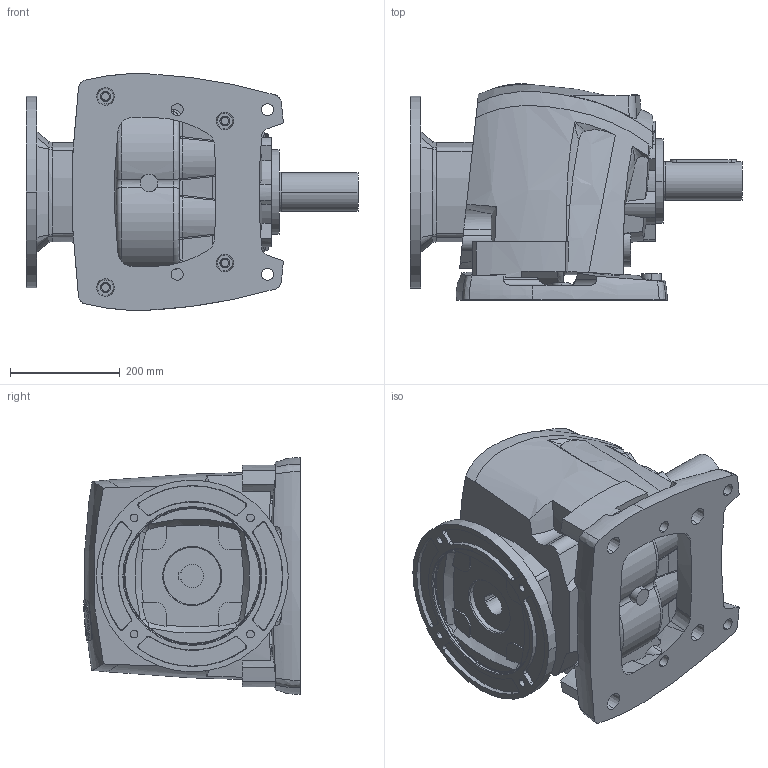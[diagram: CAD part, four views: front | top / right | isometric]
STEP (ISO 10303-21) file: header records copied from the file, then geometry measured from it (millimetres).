
FILE_DESCRIPTION((''),'2;1');
FILE_NAME('ASM0001_ASM','2013-12-24T',('Luca'),(''),'PRO/ENGINEER BY PARAMETRIC TECHNOLOGY CORPORATION, 2008230','PRO/ENGINEER BY PARAMETRIC TECHNOLOGY CORPORATION, 2008230','');
FILE_SCHEMA(('CONFIG_CONTROL_DESIGN'));
Length unit declared in the file: millimetre
Products named in the file (3): R60_UNV_PAM160_D2; PIEDE_BF_R60; ASM0001_ASM
Assembly tree (2 placements, depth 2):
  ASM0001_ASM
    R60_UNV_PAM160_D2
    PIEDE_BF_R60
Bounding box: 605.5 x 394.93 x 431.39 mm (x, y, z)
Volume: 43464596.5 mm3; surface area: 1272966.7 mm2
Topology: 2 solids, 2 shells, 626 faces, 1685 edges, 1115 vertices
Faces by surface type: plane 218, cylinder 205, bspline 117, cone 44, torus 25, extrusion 9, sphere 4, revolution 4
Entity records: 26548 total; most frequent: CARTESIAN_POINT 11947, ORIENTED_EDGE 3366, DIRECTION 2486, EDGE_CURVE 1683, VERTEX_POINT 1115, AXIS2_PLACEMENT_3D 941, EDGE_LOOP 706, B_SPLINE_CURVE_WITH_KNOTS 665
